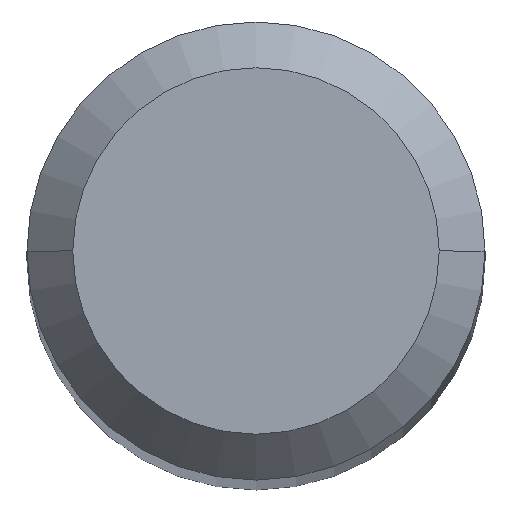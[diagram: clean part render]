
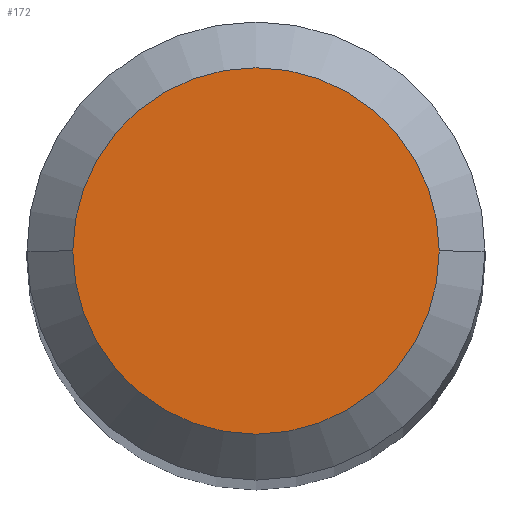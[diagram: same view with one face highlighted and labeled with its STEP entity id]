
A CAD part, top view. The second image highlights one B-rep face of the part: STEP entity #172.
In plain terms, the highlighted planar face has unit normal (0, 0, 1).
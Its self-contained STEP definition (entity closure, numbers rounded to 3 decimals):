
#7 = CIRCLE ( 'NONE', #59, 1.2 ) ;
#9 = DIRECTION ( 'NONE',  ( 0., 0., 1. ) ) ;
#34 = DIRECTION ( 'NONE',  ( 0., 0., -1. ) ) ;
#37 = CARTESIAN_POINT ( 'NONE',  ( 1.2, 0., 0. ) ) ;
#40 = CARTESIAN_POINT ( 'NONE',  ( -1.2, 0., 0. ) ) ;
#48 = CARTESIAN_POINT ( 'NONE',  ( 0., 0., 0. ) ) ;
#59 = AXIS2_PLACEMENT_3D ( 'NONE', #48, #339, #196 ) ;
#76 = ORIENTED_EDGE ( 'NONE', *, *, #112, .F. ) ;
#98 = EDGE_LOOP ( 'NONE', ( #181, #76 ) ) ;
#112 = EDGE_CURVE ( 'NONE', #344, #201, #291, .T. ) ;
#140 = CARTESIAN_POINT ( 'NONE',  ( 0., 0., 0. ) ) ;
#169 = DIRECTION ( 'NONE',  ( 1., 0., 0. ) ) ;
#172 = ADVANCED_FACE ( 'NONE', ( #250 ), #313, .T. ) ;
#181 = ORIENTED_EDGE ( 'NONE', *, *, #193, .F. ) ;
#193 = EDGE_CURVE ( 'NONE', #201, #344, #7, .T. ) ;
#196 = DIRECTION ( 'NONE',  ( -1., 0., 0. ) ) ;
#201 = VERTEX_POINT ( 'NONE', #40 ) ;
#209 = AXIS2_PLACEMENT_3D ( 'NONE', #140, #34, #242 ) ;
#222 = CARTESIAN_POINT ( 'NONE',  ( 0., 1.2, 0. ) ) ;
#242 = DIRECTION ( 'NONE',  ( -1., 0., 0. ) ) ;
#250 = FACE_OUTER_BOUND ( 'NONE', #98, .T. ) ;
#291 = CIRCLE ( 'NONE', #209, 1.2 ) ;
#311 = AXIS2_PLACEMENT_3D ( 'NONE', #222, #9, #169 ) ;
#313 = PLANE ( 'NONE',  #311 ) ;
#339 = DIRECTION ( 'NONE',  ( 0., 0., -1. ) ) ;
#344 = VERTEX_POINT ( 'NONE', #37 ) ;
